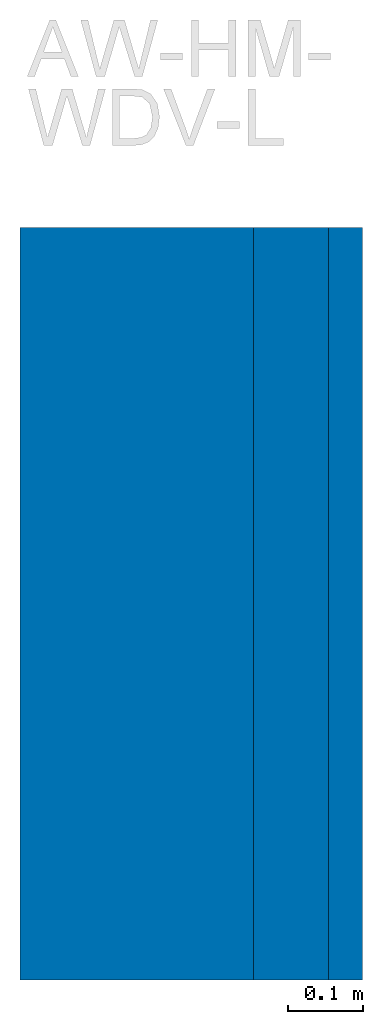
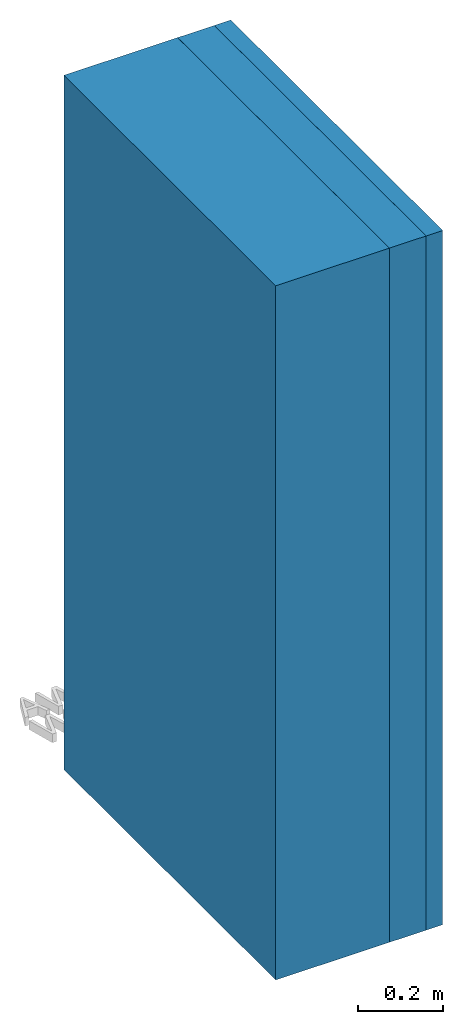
# Not in any storey, part 1 of 2: 3 walls, 1 element without a shape of its own.
"""IFC4 model written with IfcOpenShell, lengths in metres."""

from ifc_helpers import new_model, entity, si_unit, converted_unit, derived_unit, direction, frame, origin, place, context, subcontext, project, spatial, indexed_curve, outline, extrude, material, constituent, constituent_set, type_object, element, aggregate, save


model = new_model("IFC4")

# Units and contexts
model_context = context("Model", 3, precision=1e-05, world=origin(), true_north=direction((6.123031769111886e-17, 1.0)))
body_context = subcontext(model_context, "Body", "Model", "MODEL_VIEW")
ifc_project = project(units=[si_unit("LENGTHUNIT", "METRE"), si_unit("AREAUNIT", "SQUARE_METRE"), si_unit("VOLUMEUNIT", "CUBIC_METRE"), converted_unit("PLANEANGLEUNIT", "DEGREE", entity("IfcRatioMeasure", 0.017453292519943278), si_unit("PLANEANGLEUNIT", "RADIAN"), dimensions=[0, 0, 0, 0, 0, 0, 0]), si_unit("MASSUNIT", "GRAM", prefix="KILO"), derived_unit("MASSDENSITYUNIT", [(si_unit("MASSUNIT", "GRAM", prefix="KILO"), 1), (si_unit("LENGTHUNIT", "METRE"), -3)]), derived_unit("IONCONCENTRATIONUNIT", [(si_unit("MASSUNIT", "GRAM", prefix="KILO"), 1), (si_unit("LENGTHUNIT", "METRE"), -3)]), derived_unit("MOMENTOFINERTIAUNIT", [(si_unit("LENGTHUNIT", "METRE"), 4)]), si_unit("TIMEUNIT", "SECOND"), si_unit("FREQUENCYUNIT", "HERTZ"), si_unit("THERMODYNAMICTEMPERATUREUNIT", "DEGREE_CELSIUS"), derived_unit("THERMALTRANSMITTANCEUNIT", [(si_unit("MASSUNIT", "GRAM", prefix="KILO"), 1), (si_unit("THERMODYNAMICTEMPERATUREUNIT", "KELVIN"), -1), (si_unit("TIMEUNIT", "SECOND"), -3)]), derived_unit("THERMALCONDUCTANCEUNIT", [(si_unit("MASSUNIT", "GRAM", prefix="KILO"), 1), (si_unit("THERMODYNAMICTEMPERATUREUNIT", "KELVIN"), -1), (si_unit("TIMEUNIT", "SECOND"), -3), (si_unit("LENGTHUNIT", "METRE"), 1)]), derived_unit("VOLUMETRICFLOWRATEUNIT", [(si_unit("LENGTHUNIT", "METRE"), 3), (si_unit("TIMEUNIT", "SECOND"), -1)]), derived_unit("MASSFLOWRATEUNIT", [(si_unit("MASSUNIT", "GRAM", prefix="KILO"), 1), (si_unit("TIMEUNIT", "SECOND"), -1)]), derived_unit("ROTATIONALFREQUENCYUNIT", [(si_unit("TIMEUNIT", "SECOND"), -1)]), si_unit("ELECTRICCURRENTUNIT", "AMPERE"), si_unit("ELECTRICVOLTAGEUNIT", "VOLT"), si_unit("POWERUNIT", "WATT"), si_unit("FORCEUNIT", "NEWTON", prefix="KILO"), si_unit("ILLUMINANCEUNIT", "LUX"), si_unit("LUMINOUSFLUXUNIT", "LUMEN"), si_unit("LUMINOUSINTENSITYUNIT", "CANDELA"), derived_unit("USERDEFINED", [(si_unit("MASSUNIT", "GRAM", prefix="KILO"), -1), (si_unit("LENGTHUNIT", "METRE"), -2), (si_unit("TIMEUNIT", "SECOND"), 3), (si_unit("LUMINOUSFLUXUNIT", "LUMEN"), 1)]), derived_unit("USERDEFINED", [(si_unit("MASSUNIT", "GRAM", prefix="KILO"), 1), (si_unit("TIMEUNIT", "SECOND"), -3), (si_unit("LENGTHUNIT", "METRE"), 3), (si_unit("ELECTRICCURRENTUNIT", "AMPERE"), -2)]), derived_unit("SOUNDPOWERUNIT", [(si_unit("MASSUNIT", "GRAM", prefix="KILO"), 1), (si_unit("TIMEUNIT", "SECOND"), -3), (si_unit("LENGTHUNIT", "METRE"), 2)]), derived_unit("SOUNDPRESSUREUNIT", [(si_unit("MASSUNIT", "GRAM", prefix="KILO"), 1), (si_unit("LENGTHUNIT", "METRE"), -1), (si_unit("TIMEUNIT", "SECOND"), -2)]), derived_unit("LINEARVELOCITYUNIT", [(si_unit("LENGTHUNIT", "METRE"), 1), (si_unit("TIMEUNIT", "SECOND"), -1)]), si_unit("PRESSUREUNIT", "PASCAL"), derived_unit("USERDEFINED", [(si_unit("MASSUNIT", "GRAM", prefix="KILO"), 1), (si_unit("LENGTHUNIT", "METRE"), -2), (si_unit("TIMEUNIT", "SECOND"), -2)]), derived_unit("LINEARFORCEUNIT", [(si_unit("MASSUNIT", "GRAM", prefix="KILO"), 1), (si_unit("TIMEUNIT", "SECOND"), -2)]), derived_unit("PLANARFORCEUNIT", [(si_unit("MASSUNIT", "GRAM", prefix="KILO"), 1), (si_unit("LENGTHUNIT", "METRE"), -1), (si_unit("TIMEUNIT", "SECOND"), -2)]), derived_unit("SPECIFICHEATCAPACITYUNIT", [(si_unit("THERMODYNAMICTEMPERATUREUNIT", "KELVIN"), -1), (si_unit("LENGTHUNIT", "METRE"), 2), (si_unit("TIMEUNIT", "SECOND"), -2)]), derived_unit("HEATINGVALUEUNIT", [(si_unit("LENGTHUNIT", "METRE"), 2), (si_unit("TIMEUNIT", "SECOND"), -2)]), derived_unit("VAPORPERMEABILITYUNIT", [(si_unit("LENGTHUNIT", "METRE"), -1), (si_unit("TIMEUNIT", "SECOND"), 1)]), derived_unit("DYNAMICVISCOSITYUNIT", [(si_unit("MASSUNIT", "GRAM", prefix="KILO"), 1), (si_unit("TIMEUNIT", "SECOND"), -1), (si_unit("LENGTHUNIT", "METRE"), -1)]), derived_unit("THERMALEXPANSIONCOEFFICIENTUNIT", [(si_unit("THERMODYNAMICTEMPERATUREUNIT", "KELVIN"), -1)]), derived_unit("MODULUSOFELASTICITYUNIT", [(si_unit("MASSUNIT", "GRAM", prefix="KILO"), 1), (si_unit("LENGTHUNIT", "METRE"), -1), (si_unit("TIMEUNIT", "SECOND"), -2)]), derived_unit("ISOTHERMALMOISTURECAPACITYUNIT", [(si_unit("LENGTHUNIT", "METRE"), 3), (si_unit("MASSUNIT", "GRAM", prefix="KILO"), -1)]), derived_unit("MOISTUREDIFFUSIVITYUNIT", [(si_unit("TIMEUNIT", "SECOND"), -1), (si_unit("LENGTHUNIT", "METRE"), 2)])], contexts=[model_context])

# Site
site_placement = place(None, origin())
site = spatial("IfcSite", under=ifc_project, at=site_placement, Name="Default", CompositionType="ELEMENT")

# Assembly, walls
assembly_placement = place(site_placement, origin())
assembly = element("IfcElementAssembly", 1, at=assembly_placement, inside=site, Name="Wände Baugruppe:fbimSg_Wall_bc_WOD_vis_at_NTR_natuREbuilt_AW-HM-WDV-L_GK3_46cm", ObjectType="Wände Baugruppe:fbimSg_Wall_bc_WOD_vis_at_NTR_natuREbuilt_AW-HM-WDV-L_GK3_46cm", AssemblyPlace="NOTDEFINED", PredefinedType="USERDEFINED")
ifc_material_1 = material(Name="fbim_14153515_AT_001_Silikatputz_KP_1.5mm")
ifc_constituent_1 = constituent(ifc_material_1, Name="fbim_14153515_AT_001_Silikatputz_KP_1.5mm")
ifc_material_2 = material(Name="fbim_14100530_AT_Holzfaserdaemmung")
ifc_constituent_2 = constituent(ifc_material_2, Name="fbim_14100530_AT_Holzfaserdaemmung")
ifc_material_3 = material(Name="fbim_14100500_at_NTR_Zellulose-Einblasdaemmung")
ifc_constituent_3 = constituent(ifc_material_3, Name="fbim_14100500_at_NTR_Zellulose-Einblasdaemmung")
ifc_constituent_set_1 = constituent_set(constituents=[ifc_constituent_1, ifc_constituent_2, ifc_constituent_3], Name="Basiswand:fbimSg_Wall_dp_INS_vis_at_NTR_natuREbuilt_AWMv-I_GK3_a_6cm")
wall_type_1 = type_object("IfcWallType", Name="Basiswand:fbimSg_Wall_dp_INS_vis_at_NTR_natuREbuilt_AWMv-I_GK3_a_6cm", PredefinedType="STANDARD", material=ifc_constituent_set_1)
wall_1_placement = place(assembly_placement, frame((1.7993277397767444, 47.65546538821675, 0.0), z_axis=(0.0, 0.0, 1.0), x_axis=(0.0, -1.0, 0.0)))
wall_1 = element("IfcWall", 2, at=wall_1_placement, type_object=wall_type_1, material=ifc_constituent_set_1, Name="Basiswand:fbimSg_Wall_dp_INS_vis_at_NTR_natuREbuilt_AWMv-I_GK3_a_6cm", ObjectType="Basiswand:fbimSg_Wall_dp_INS_vis_at_NTR_natuREbuilt_AWMv-I_GK3_a_6cm", PredefinedType="NOTDEFINED", context=body_context, shape_type="SweptSolid", body=[
    extrude(outline(indexed_curve([(-0.12000000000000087, -0.49999999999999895), (0.11999999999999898, -0.49999999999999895), (0.1200000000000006, 0.49999999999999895), (-0.11999999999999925, 0.49999999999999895), (-0.12000000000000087, -0.49999999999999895)], self_intersect=False)), frame((0.49999999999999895, 0.03499999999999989, 0.0), z_axis=(0.0, 0.0, 1.0), x_axis=(0.0, -1.0, 0.0)), (0.0, 0.0, 1.0), 1.9999999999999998),
    extrude(outline(indexed_curve([(-0.4999999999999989, -0.030000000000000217), (0.499999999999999, -0.030000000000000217), (0.4999999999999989, 0.029999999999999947), (-0.499999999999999, 0.029999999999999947), (-0.4999999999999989, -0.030000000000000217)], self_intersect=False)), frame((0.49999999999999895, -0.11499999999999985, 0.0)), (0.0, 0.0, 1.0), 1.9999999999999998),
    extrude(outline(indexed_curve([(-0.005000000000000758, -0.49999999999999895), (0.0049999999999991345, -0.49999999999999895), (0.005000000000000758, 0.49999999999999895), (-0.0049999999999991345, 0.49999999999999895), (-0.005000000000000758, -0.49999999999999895)], self_intersect=False)), frame((0.49999999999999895, -0.15000000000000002, 0.0), z_axis=(0.0, 0.0, 1.0), x_axis=(0.0, 1.0, 0.0)), (0.0, 0.0, 1.0), 1.9999999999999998),
])
ifc_material_4 = material(Name="fbim_12402020_AT_001_Brettschichtholz")
wall_type_2 = type_object("IfcWallType", Name="Basiswand:fbimSg_Wall_sb_WOD_vis_at_NTR_natuREbuilt_AWMv-I_GK3_k_24cm", PredefinedType="STANDARD")
wall_2_placement = place(assembly_placement, frame((2.0043277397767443, 47.65546538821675, 0.0), z_axis=(0.0, 0.0, 1.0), x_axis=(0.0, -1.0, 0.0)))
wall_2 = element("IfcWall", 3, at=wall_2_placement, type_object=wall_type_2, material=ifc_material_4, Name="Basiswand:fbimSg_Wall_sb_WOD_vis_at_NTR_natuREbuilt_AWMv-I_GK3_k_24cm", ObjectType="Basiswand:fbimSg_Wall_sb_WOD_vis_at_NTR_natuREbuilt_AWMv-I_GK3_k_24cm", PredefinedType="NOTDEFINED", context=body_context, shape_type="SweptSolid", body=[
    extrude(outline(indexed_curve([(0.9999999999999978, 0.05), (-8.121503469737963e-17, 0.05), (8.121503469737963e-17, -0.05), (0.999999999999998, -0.05), (0.9999999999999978, 0.05)], self_intersect=False)), origin(), (0.0, 0.0, 1.0), 1.9999999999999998),
])
ifc_material_5 = material(Name="fbim_16200505_at_NTR_Lehm_Grundputz", Category="Verschiedene")
ifc_constituent_4 = constituent(ifc_material_5, Name="fbim_16200505_at_NTR_Lehm_Grundputz", Category="Verschiedene")
ifc_material_6 = material(Name="fbim_16200510_at_NTR_Lehm_Duennputz", Category="Verschiedene")
ifc_constituent_5 = constituent(ifc_material_6, Name="fbim_16200510_at_NTR_Lehm_Duennputz", Category="Verschiedene")
ifc_constituent_set_2 = constituent_set(constituents=[ifc_constituent_4, ifc_constituent_5], Name="Basiswand:fbimSg_Wall_dp_PLA_vis_at_NTR_natuREbuilt_AWMv-I_GK3_i_Lehm")
wall_type_3 = type_object("IfcWallType", Name="Basiswand:fbimSg_Wall_dp_PLA_vis_at_NTR_natuREbuilt_AWMv-I_GK3_i_Lehm", PredefinedType="STANDARD", material=ifc_constituent_set_2)
wall_3_placement = place(assembly_placement, frame((2.0768277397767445, 47.65546538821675, 0.0), z_axis=(0.0, 0.0, 1.0), x_axis=(0.0, -1.0, 0.0)))
wall_3 = element("IfcWall", 4, at=wall_3_placement, type_object=wall_type_3, material=ifc_constituent_set_2, Name="Basiswand:fbimSg_Wall_dp_PLA_vis_at_NTR_natuREbuilt_AWMv-I_GK3_i_Lehm", ObjectType="Basiswand:fbimSg_Wall_dp_PLA_vis_at_NTR_natuREbuilt_AWMv-I_GK3_i_Lehm", PredefinedType="NOTDEFINED", context=body_context, shape_type="SweptSolid", body=[
    extrude(outline(indexed_curve([(-0.0025000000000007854, -0.49999999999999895), (0.002499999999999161, -0.49999999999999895), (0.0025000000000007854, 0.49999999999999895), (-0.002499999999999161, 0.49999999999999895), (-0.0025000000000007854, -0.49999999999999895)], self_intersect=False)), frame((0.49999999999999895, 0.020000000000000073, 0.0), z_axis=(0.0, 0.0, 1.0), x_axis=(0.0, -1.0, 0.0)), (0.0, 0.0, 1.0), 1.9999999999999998),
    extrude(outline(indexed_curve([(-0.020000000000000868, -0.49999999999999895), (0.019999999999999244, -0.49999999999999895), (0.020000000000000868, 0.49999999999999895), (-0.019999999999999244, 0.49999999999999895), (-0.020000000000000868, -0.49999999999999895)], self_intersect=False)), frame((0.49999999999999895, -0.002499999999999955, 0.0), z_axis=(0.0, 0.0, 1.0), x_axis=(0.0, 1.0, 0.0)), (0.0, 0.0, 1.0), 1.9999999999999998),
])
aggregate(assembly, [wall_1, wall_2, wall_3])

save(model, "model.ifc")
